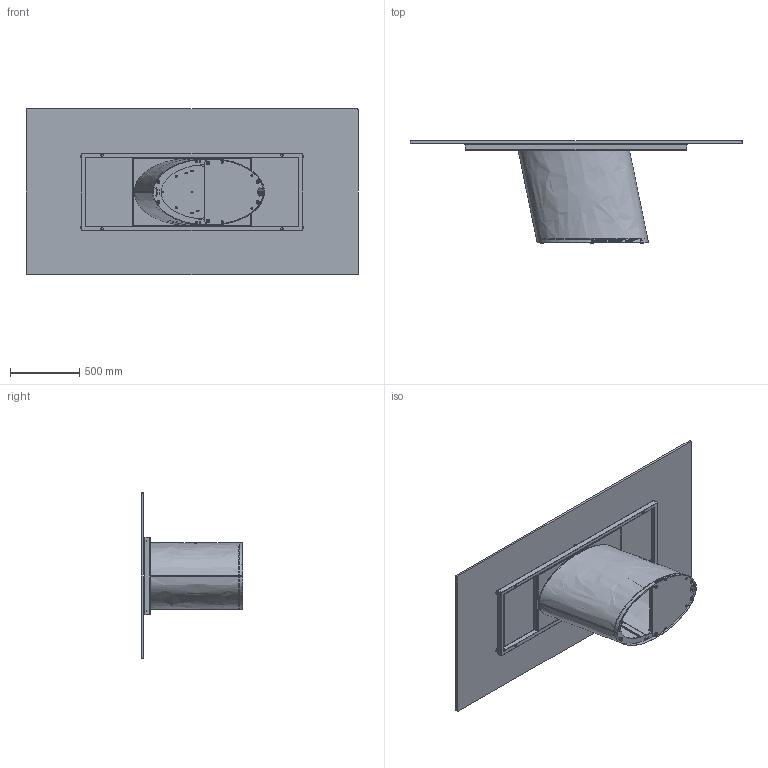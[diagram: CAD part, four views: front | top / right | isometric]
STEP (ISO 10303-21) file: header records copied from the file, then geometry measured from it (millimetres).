
FILE_DESCRIPTION (( 'STEP AP203' ), '1' );
FILE_NAME ('DO23G.STEP', '2024-08-06T13:10:39', ( '' ), ( '' ), 'SwSTEP 2.0', 'SolidWorks 2022', '' );
FILE_SCHEMA (( 'CONFIG_CONTROL_DESIGN' ));
Length unit declared in the file: millimetre
Products named in the file (20): DOB000000_08-00-Zavorra inferiore_Default<A macchina>; barra filettata H.72cm_barra; DO23G; DOB000000-00-DORADO BASE GREZZO; DOB000000_05-00-Zavorra intenra del dorado_Default<A macchina>; DOB000000_07-00-lamiera guscio sx_Default<A macchina>; DOB000000_02-00-barra rettangoalre di supporto_Default<A macchina>; nut_M8_M8; piedino dorado; DOB000000_03-00-Piastra  inferiore_Default<A macchina>; 434070-00-PIEDINO TPV GOMMA NERO D. 30x8max18_filo estetico; TTAV01_02-05-VASSOIO IRRIGIDIMENTO TELAIO UNIVERSALE; DOB000000_04-00-contrapesso filettato_Default<A macchina>; COLLO TELAIO UNIVERSALE TTAV01 CON FERRAMENTA_MTG TOP CRISTALLO VERNICIATO-CERAMICA; C2XCRXX-00-Piani Rettangolari Cristallo_23 2400x1200; DOB000000_06-00-Lamiera guscio dx_Default<A macchina>; M8xXXmm_M8X30mm; TTAV01_01-05-TELAIO UNIVERSALE X TAVOLI 180 240cm; DOB000000_01-00-piastra superiore _Default<A macchina>; TTAV01-05-TELAIO UNIVERSALE X TAVOLI 180 240cm
Assembly tree (40 placements, depth 4):
  DO23G
    DOB000000-00-DORADO BASE GREZZO
      DOB000000_08-00-Zavorra inferiore_Default<A macchina>
      DOB000000_04-00-contrapesso filettato_Default<A macchina>
      DOB000000_05-00-Zavorra intenra del dorado_Default<A macchina>  x4
      DOB000000_01-00-piastra superiore _Default<A macchina>
      DOB000000_07-00-lamiera guscio sx_Default<A macchina>
      DOB000000_02-00-barra rettangoalre di supporto_Default<A macchina>  x4
      DOB000000_03-00-Piastra  inferiore_Default<A macchina>
      DOB000000_06-00-Lamiera guscio dx_Default<A macchina>
      M8xXXmm_M8X30mm  x4
      nut_M8_M8  x2
      piedino dorado  x6
      barra filettata H.72cm_barra  x2
    COLLO TELAIO UNIVERSALE TTAV01 CON FERRAMENTA_MTG TOP CRISTALLO VERNICIATO-CERAMICA
      TTAV01-05-TELAIO UNIVERSALE X TAVOLI 180 240cm
        TTAV01_02-05-VASSOIO IRRIGIDIMENTO TELAIO UNIVERSALE
        TTAV01_01-05-TELAIO UNIVERSALE X TAVOLI 180 240cm
      434070-00-PIEDINO TPV GOMMA NERO D. 30x8max18_filo estetico  x6
    C2XCRXX-00-Piani Rettangolari Cristallo_23 2400x1200
Bounding box: 2400 x 737 x 1200 mm (x, y, z)
Volume: 55358836.8 mm3; surface area: 13124525.9 mm2
Topology: 49 solids, 49 shells, 1104 faces, 2676 edges, 1684 vertices
Faces by surface type: cylinder 470, plane 408, torus 100, cone 92, bspline 26, sphere 8
Entity records: 26485 total; most frequent: CARTESIAN_POINT 7788, DIRECTION 3459, ORIENTED_EDGE 3236, EDGE_CURVE 1618, AXIS2_PLACEMENT_3D 1279, VERTEX_POINT 1042, LINE 901, VECTOR 901
